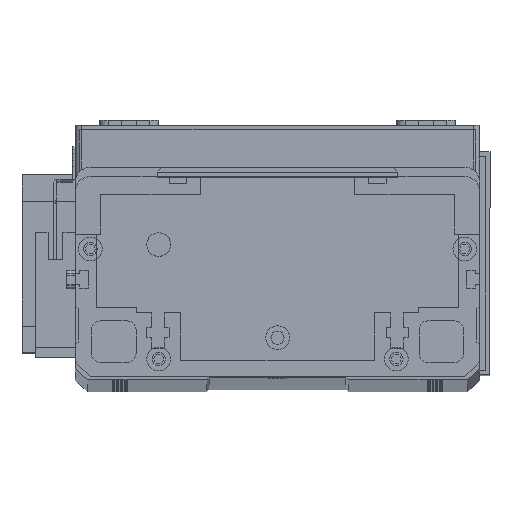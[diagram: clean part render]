
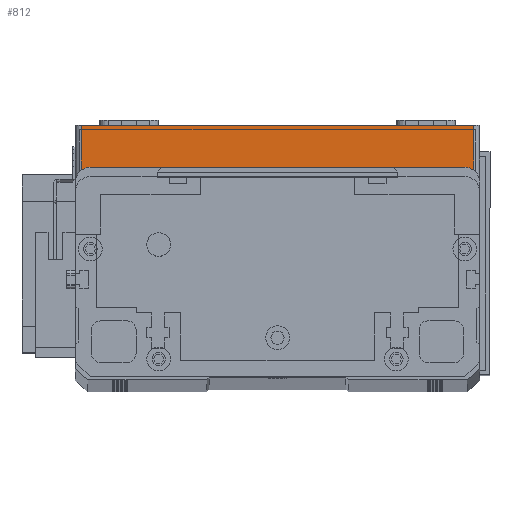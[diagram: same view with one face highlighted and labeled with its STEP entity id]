
A CAD part, top view. The second image highlights one B-rep face of the part: STEP entity #812.
In plain terms, the highlighted planar face has unit normal (0, 0, 1) as drawn and (0, -1, 0) by its records, which use the part's own axes.
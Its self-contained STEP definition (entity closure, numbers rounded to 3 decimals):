
#231 = ORIENTED_EDGE ( 'NONE', *, *, #8645, .F. ) ;
#565 = FACE_OUTER_BOUND ( 'NONE', #15271, .T. ) ;
#623 = LINE ( 'NONE', #15575, #17132 ) ;
#812 = ADVANCED_FACE ( 'NONE', ( #565 ), #13835, .F. ) ;
#2066 = VECTOR ( 'NONE', #21429, 1000. ) ;
#3488 = VERTEX_POINT ( 'NONE', #20370 ) ;
#3887 = DIRECTION ( 'NONE',  ( 1., 0., 0. ) ) ;
#4859 = VECTOR ( 'NONE', #28941, 1000. ) ;
#5038 = CARTESIAN_POINT ( 'NONE',  ( 134., 0., 19.5 ) ) ;
#5368 = VERTEX_POINT ( 'NONE', #22003 ) ;
#7145 = LINE ( 'NONE', #27507, #13374 ) ;
#8645 = EDGE_CURVE ( 'NONE', #3488, #5368, #623, .T. ) ;
#13006 = EDGE_CURVE ( 'NONE', #3488, #13021, #18816, .T. ) ;
#13021 = VERTEX_POINT ( 'NONE', #26701 ) ;
#13374 = VECTOR ( 'NONE', #15792, 1000. ) ;
#13835 = PLANE ( 'NONE',  #27698 ) ;
#15271 = EDGE_LOOP ( 'NONE', ( #231, #25837, #29102, #24836 ) ) ;
#15575 = CARTESIAN_POINT ( 'NONE',  ( 0., 0., 19.5 ) ) ;
#15792 = DIRECTION ( 'NONE',  ( 1., 0., 0. ) ) ;
#17132 = VECTOR ( 'NONE', #3887, 1000. ) ;
#17387 = EDGE_CURVE ( 'NONE', #13021, #20670, #7145, .T. ) ;
#18816 = LINE ( 'NONE', #24263, #4859 ) ;
#20370 = CARTESIAN_POINT ( 'NONE',  ( 2., 0., 19.5 ) ) ;
#20670 = VERTEX_POINT ( 'NONE', #25538 ) ;
#21429 = DIRECTION ( 'NONE',  ( 0., 0., 1. ) ) ;
#22003 = CARTESIAN_POINT ( 'NONE',  ( 134., 0., 19.5 ) ) ;
#24263 = CARTESIAN_POINT ( 'NONE',  ( 2., 0., 19.5 ) ) ;
#24836 = ORIENTED_EDGE ( 'NONE', *, *, #25929, .T. ) ;
#25538 = CARTESIAN_POINT ( 'NONE',  ( 134., 0., 0. ) ) ;
#25837 = ORIENTED_EDGE ( 'NONE', *, *, #13006, .T. ) ;
#25929 = EDGE_CURVE ( 'NONE', #20670, #5368, #27035, .T. ) ;
#26701 = CARTESIAN_POINT ( 'NONE',  ( 2., 0., 0. ) ) ;
#27035 = LINE ( 'NONE', #5038, #2066 ) ;
#27507 = CARTESIAN_POINT ( 'NONE',  ( 0., 0., 0. ) ) ;
#27698 = AXIS2_PLACEMENT_3D ( 'NONE', #27990, #29419, #29533 ) ;
#27990 = CARTESIAN_POINT ( 'NONE',  ( 0., 0., 19.5 ) ) ;
#28941 = DIRECTION ( 'NONE',  ( 0., 0., -1. ) ) ;
#29102 = ORIENTED_EDGE ( 'NONE', *, *, #17387, .T. ) ;
#29419 = DIRECTION ( 'NONE',  ( 0., 1., 0. ) ) ;
#29533 = DIRECTION ( 'NONE',  ( 0., 0., 1. ) ) ;
